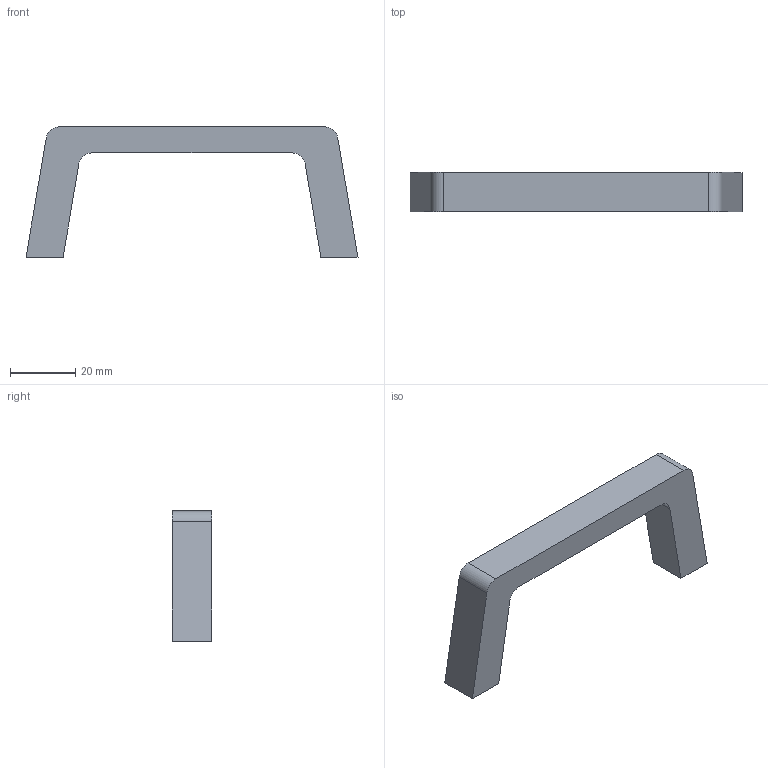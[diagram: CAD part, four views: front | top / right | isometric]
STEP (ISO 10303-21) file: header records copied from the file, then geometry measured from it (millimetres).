
FILE_DESCRIPTION((''),'2;1');
FILE_NAME('6416.stp','2023-10-09T16:40:57',(''),(''),'Mechanical Desktop 2006','Mechanical Desktop 2006',', , ');
FILE_SCHEMA(('CONFIG_CONTROL_DESIGN'));
Length unit declared in the file: millimetre
Products named in the file (2): Product; *U23
Assembly tree (1 placements, depth 2):
  Product
    *U23
Bounding box: 102 x 12 x 40 mm (x, y, z)
Volume: 17041.8 mm3; surface area: 7046.7 mm2
Topology: 1 solids, 1 shells, 36 faces, 84 edges, 50 vertices
Faces by surface type: cone 12, cylinder 12, plane 12
Entity records: 1105 total; most frequent: DIRECTION 188, CARTESIAN_POINT 168, ORIENTED_EDGE 160, EDGE_CURVE 80, AXIS2_PLACEMENT_3D 70, VERTEX_POINT 50, VECTOR 48, LINE 48
